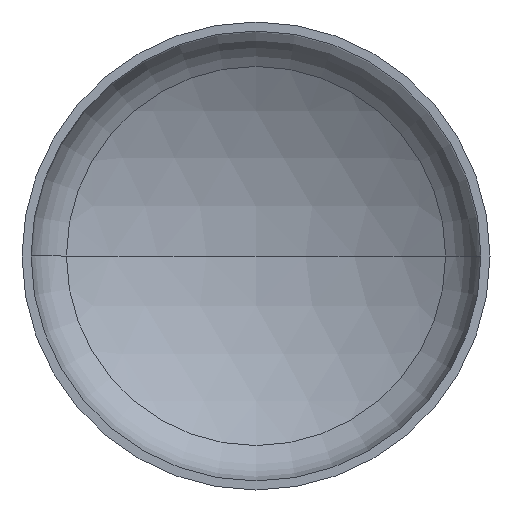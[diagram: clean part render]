
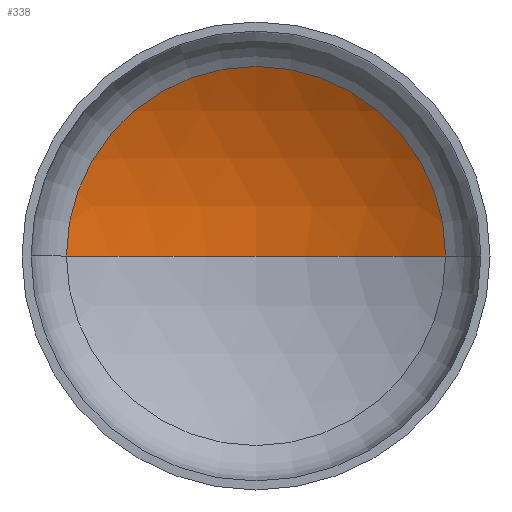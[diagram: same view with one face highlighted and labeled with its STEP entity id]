
A CAD part, front view. The second image highlights one B-rep face of the part: STEP entity #338.
In plain terms, the highlighted spherical face has radius 1280 mm.
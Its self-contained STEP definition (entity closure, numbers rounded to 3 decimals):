
#1 = ORIENTED_EDGE ( 'NONE', *, *, #359, .F. ) ;
#5 = ORIENTED_EDGE ( 'NONE', *, *, #127, .T. ) ;
#10 = AXIS2_PLACEMENT_3D ( 'NONE', #137, #190, #304 ) ;
#12 = EDGE_LOOP ( 'NONE', ( #1, #47, #5 ) ) ;
#17 = AXIS2_PLACEMENT_3D ( 'NONE', #387, #184, #166 ) ;
#35 = DIRECTION ( 'NONE',  ( 1., 0., 0. ) ) ;
#47 = ORIENTED_EDGE ( 'NONE', *, *, #129, .T. ) ;
#56 = AXIS2_PLACEMENT_3D ( 'NONE', #140, #306, #262 ) ;
#59 = AXIS2_PLACEMENT_3D ( 'NONE', #410, #183, #35 ) ;
#72 = VERTEX_POINT ( 'NONE', #239 ) ;
#75 = VERTEX_POINT ( 'NONE', #256 ) ;
#114 = VERTEX_POINT ( 'NONE', #205 ) ;
#127 = EDGE_CURVE ( 'NONE', #114, #72, #272, .T. ) ;
#129 = EDGE_CURVE ( 'NONE', #75, #114, #143, .T. ) ;
#137 = CARTESIAN_POINT ( 'NONE',  ( 0., -792.552, 0. ) ) ;
#140 = CARTESIAN_POINT ( 'NONE',  ( 0., -792.552, 0. ) ) ;
#143 = CIRCLE ( 'NONE', #56, 1280. ) ;
#166 = DIRECTION ( 'NONE',  ( -1., 0., 0. ) ) ;
#170 = CIRCLE ( 'NONE', #10, 1280. ) ;
#183 = DIRECTION ( 'NONE',  ( 0., -1., 0. ) ) ;
#184 = DIRECTION ( 'NONE',  ( 0., 0., -1. ) ) ;
#186 = SPHERICAL_SURFACE ( 'NONE', #17, 1280. ) ;
#190 = DIRECTION ( 'NONE',  ( 0., 0., 1. ) ) ;
#205 = CARTESIAN_POINT ( 'NONE',  ( 648.039, 311.28, 0. ) ) ;
#239 = CARTESIAN_POINT ( 'NONE',  ( -648.039, 311.28, 0. ) ) ;
#256 = CARTESIAN_POINT ( 'NONE',  ( 0., 487.448, 0. ) ) ;
#262 = DIRECTION ( 'NONE',  ( -1., 0., 0. ) ) ;
#272 = CIRCLE ( 'NONE', #59, 648.039 ) ;
#304 = DIRECTION ( 'NONE',  ( 1., 0., 0. ) ) ;
#306 = DIRECTION ( 'NONE',  ( 0., 0., -1. ) ) ;
#338 = ADVANCED_FACE ( 'NONE', ( #358 ), #186, .F. ) ;
#358 = FACE_OUTER_BOUND ( 'NONE', #12, .T. ) ;
#359 = EDGE_CURVE ( 'NONE', #75, #72, #170, .T. ) ;
#387 = CARTESIAN_POINT ( 'NONE',  ( 0., -792.552, 0. ) ) ;
#410 = CARTESIAN_POINT ( 'NONE',  ( 0., 311.28, 0. ) ) ;
